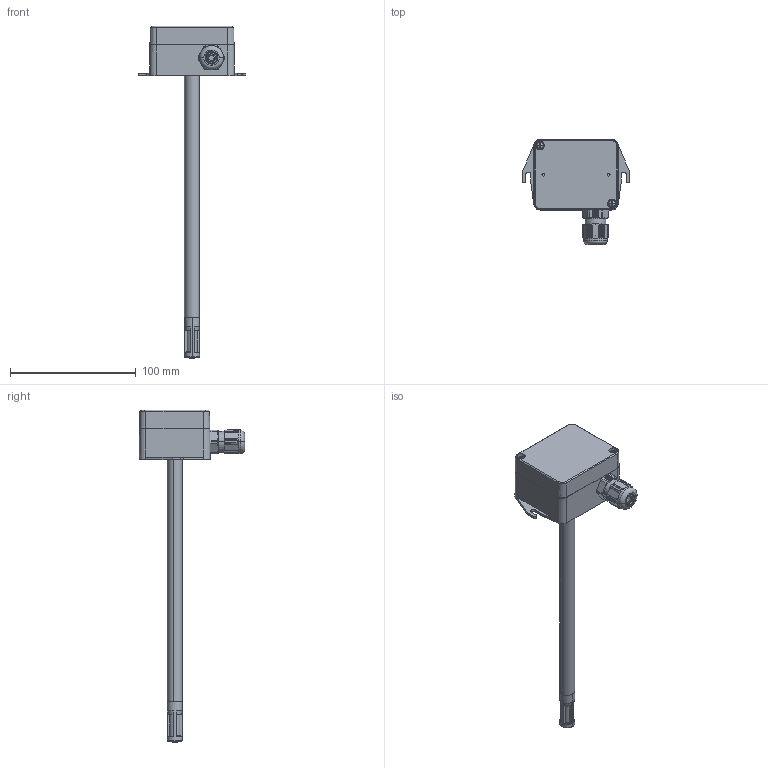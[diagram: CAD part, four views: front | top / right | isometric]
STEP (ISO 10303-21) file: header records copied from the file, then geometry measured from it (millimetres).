
FILE_DESCRIPTION (( 'STEP AP214' ), '1' );
FILE_NAME ('Base BHT Duct version.STEP', '2025-01-28T13:09:51', ( '' ), ( '' ), 'SwSTEP 2.0', 'SolidWorks 2022', '' );
FILE_SCHEMA (( 'AUTOMOTIVE_DESIGN' ));
Length unit declared in the file: millimetre
Products named in the file (18): PG_Skintop_ST_16x1,5.R_102718.step; F_hlerkappe_F_hlerrohr Lang.STEP.STEP; Universens.STEP.STEP; F_hlerkappe_Grundk_rper_F_hlerrohr Lang.STEP.STEP; Filterkappe auf Fühlerrohr; F_hlerkappe_Abdeckung_F_hlerrohr Lang.STEP.STEP; SKINTOPM16; Gehäuse-Deckel 67x56x15 DS01; Base BHT Duct version; PG_Skintop_ST_16x1,5.R_102717.step; Fühlerrohr 200mm base; Universens F_hler_F_hlerrohr Lang.STEP.STEP; Filtermedium_F_hlerrohr Lang.STEP.STEP; Gehäuseschraube; Filterkappe auf Fühlerrohr.STEP; PG_Skintop_ST_16x1,5.R_102716.step; Gehäuse-Unterteil Temp+Feuchte Kanal Base; SKINTOPM16.step
Assembly tree (18 placements, depth 7):
  Base BHT Duct version
    Gehäuse-Unterteil Temp+Feuchte Kanal Base
    Gehäuse-Deckel 67x56x15 DS01
    SKINTOPM16
      SKINTOPM16.step
        PG_Skintop_ST_16x1,5.R_102716.step
        PG_Skintop_ST_16x1,5.R_102717.step
        PG_Skintop_ST_16x1,5.R_102718.step
    Fühlerrohr 200mm base
    Filterkappe auf Fühlerrohr
      Filterkappe auf Fühlerrohr.STEP
        Universens.STEP.STEP
          Universens F_hler_F_hlerrohr Lang.STEP.STEP
            F_hlerkappe_F_hlerrohr Lang.STEP.STEP
              F_hlerkappe_Grundk_rper_F_hlerrohr Lang.STEP.STEP
              F_hlerkappe_Abdeckung_F_hlerrohr Lang.STEP.STEP
              Filtermedium_F_hlerrohr Lang.STEP.STEP
    Gehäuseschraube  x2
Bounding box: 86 x 84.09 x 264.5 mm (x, y, z)
Volume: 60385.8 mm3; surface area: 59230 mm2
Topology: 11 solids, 11 shells, 768 faces, 2015 edges, 1302 vertices
Faces by surface type: plane 381, cylinder 176, cone 136, bspline 66, torus 9
Entity records: 29602 total; most frequent: CARTESIAN_POINT 10984, ORIENTED_EDGE 3926, DIRECTION 3571, EDGE_CURVE 1963, AXIS2_PLACEMENT_3D 1317, VERTEX_POINT 1269, LINE 937, VECTOR 937
